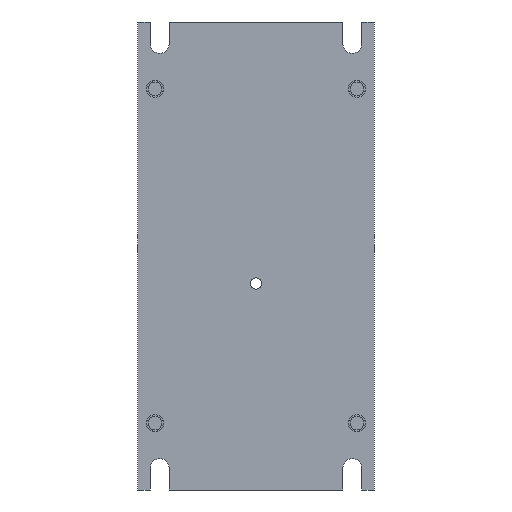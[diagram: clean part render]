
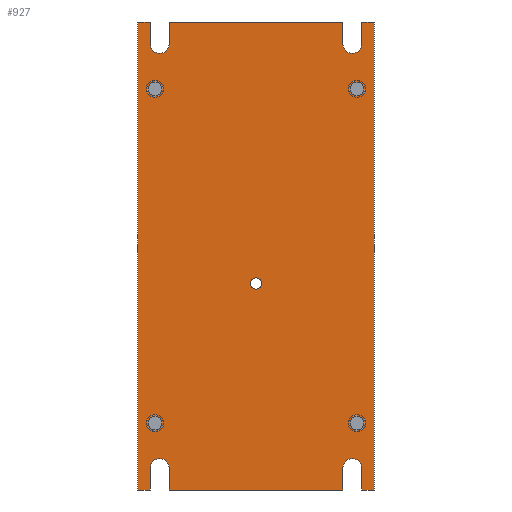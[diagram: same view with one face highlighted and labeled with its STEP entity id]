
A CAD part, front view. The second image highlights one B-rep face of the part: STEP entity #927.
In plain terms, the highlighted planar face has unit normal (0, -1, 0).
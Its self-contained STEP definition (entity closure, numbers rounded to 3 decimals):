
#71=DIRECTION('',(0.,0.,-1.));
#72=VECTOR('',#71,4.);
#73=CARTESIAN_POINT('',(-15.8,0.,42.5));
#74=LINE('',#73,#72);
#79=DIRECTION('',(1.,0.,0.));
#80=VECTOR('',#79,31.6);
#81=CARTESIAN_POINT('',(-15.8,0.,42.5));
#82=LINE('',#81,#80);
#86=DIRECTION('',(0.,0.,-1.));
#87=VECTOR('',#86,4.);
#88=CARTESIAN_POINT('',(15.8,0.,42.5));
#89=LINE('',#88,#87);
#93=CARTESIAN_POINT('',(17.5,0.,38.5));
#94=DIRECTION('',(0.,1.,0.));
#95=DIRECTION('',(1.,0.,0.));
#96=AXIS2_PLACEMENT_3D('',#93,#94,#95);
#101=DIRECTION('',(0.,0.,-1.));
#102=VECTOR('',#101,4.);
#103=CARTESIAN_POINT('',(19.2,0.,42.5));
#104=LINE('',#103,#102);
#108=DIRECTION('',(1.,0.,0.));
#109=VECTOR('',#108,2.3);
#110=CARTESIAN_POINT('',(19.2,0.,42.5));
#111=LINE('',#110,#109);
#115=DIRECTION('',(0.,0.,-1.));
#116=VECTOR('',#115,85.);
#117=CARTESIAN_POINT('',(21.5,0.,42.5));
#118=LINE('',#117,#116);
#122=DIRECTION('',(-1.,0.,0.));
#123=VECTOR('',#122,2.3);
#124=CARTESIAN_POINT('',(21.5,0.,-42.5));
#125=LINE('',#124,#123);
#129=DIRECTION('',(0.,0.,1.));
#130=VECTOR('',#129,4.);
#131=CARTESIAN_POINT('',(19.2,0.,-42.5));
#132=LINE('',#131,#130);
#136=CARTESIAN_POINT('',(17.5,0.,-38.5));
#137=DIRECTION('',(0.,1.,0.));
#138=DIRECTION('',(-1.,0.,0.));
#139=AXIS2_PLACEMENT_3D('',#136,#137,#138);
#144=DIRECTION('',(0.,0.,1.));
#145=VECTOR('',#144,4.);
#146=CARTESIAN_POINT('',(15.8,0.,-42.5));
#147=LINE('',#146,#145);
#151=DIRECTION('',(-1.,0.,0.));
#152=VECTOR('',#151,31.6);
#153=CARTESIAN_POINT('',(15.8,0.,-42.5));
#154=LINE('',#153,#152);
#158=DIRECTION('',(0.,0.,1.));
#159=VECTOR('',#158,4.);
#160=CARTESIAN_POINT('',(-15.8,0.,-42.5));
#161=LINE('',#160,#159);
#165=CARTESIAN_POINT('',(-17.5,0.,-38.5));
#166=DIRECTION('',(0.,1.,0.));
#167=DIRECTION('',(-1.,0.,0.));
#168=AXIS2_PLACEMENT_3D('',#165,#166,#167);
#173=DIRECTION('',(0.,0.,1.));
#174=VECTOR('',#173,4.);
#175=CARTESIAN_POINT('',(-19.2,0.,-42.5));
#176=LINE('',#175,#174);
#180=DIRECTION('',(-1.,0.,0.));
#181=VECTOR('',#180,2.3);
#182=CARTESIAN_POINT('',(-19.2,0.,-42.5));
#183=LINE('',#182,#181);
#187=DIRECTION('',(0.,0.,1.));
#188=VECTOR('',#187,85.);
#189=CARTESIAN_POINT('',(-21.5,0.,-42.5));
#190=LINE('',#189,#188);
#194=DIRECTION('',(1.,0.,0.));
#195=VECTOR('',#194,2.3);
#196=CARTESIAN_POINT('',(-21.5,0.,42.5));
#197=LINE('',#196,#195);
#201=DIRECTION('',(0.,0.,-1.));
#202=VECTOR('',#201,4.);
#203=CARTESIAN_POINT('',(-19.2,0.,42.5));
#204=LINE('',#203,#202);
#208=CARTESIAN_POINT('',(-17.5,0.,38.5));
#209=DIRECTION('',(0.,1.,0.));
#210=DIRECTION('',(1.,0.,0.));
#211=AXIS2_PLACEMENT_3D('',#208,#209,#210);
#216=CARTESIAN_POINT('',(-18.35,0.,30.35));
#217=DIRECTION('',(0.,1.,0.));
#218=DIRECTION('',(1.,0.,0.));
#219=AXIS2_PLACEMENT_3D('',#216,#217,#218);
#224=CARTESIAN_POINT('',(-18.35,0.,30.35));
#225=DIRECTION('',(0.,1.,0.));
#226=DIRECTION('',(-1.,0.,0.));
#227=AXIS2_PLACEMENT_3D('',#224,#225,#226);
#232=CARTESIAN_POINT('',(18.35,0.,30.35));
#233=DIRECTION('',(0.,1.,0.));
#234=DIRECTION('',(1.,0.,0.));
#235=AXIS2_PLACEMENT_3D('',#232,#233,#234);
#240=CARTESIAN_POINT('',(18.35,0.,30.35));
#241=DIRECTION('',(0.,1.,0.));
#242=DIRECTION('',(-1.,0.,0.));
#243=AXIS2_PLACEMENT_3D('',#240,#241,#242);
#248=CARTESIAN_POINT('',(-18.35,0.,-30.35));
#249=DIRECTION('',(0.,1.,0.));
#250=DIRECTION('',(1.,0.,0.));
#251=AXIS2_PLACEMENT_3D('',#248,#249,#250);
#256=CARTESIAN_POINT('',(-18.35,0.,-30.35));
#257=DIRECTION('',(0.,1.,0.));
#258=DIRECTION('',(-1.,0.,0.));
#259=AXIS2_PLACEMENT_3D('',#256,#257,#258);
#264=CARTESIAN_POINT('',(18.35,0.,-30.35));
#265=DIRECTION('',(0.,1.,0.));
#266=DIRECTION('',(1.,0.,0.));
#267=AXIS2_PLACEMENT_3D('',#264,#265,#266);
#272=CARTESIAN_POINT('',(18.35,0.,-30.35));
#273=DIRECTION('',(0.,1.,0.));
#274=DIRECTION('',(-1.,0.,0.));
#275=AXIS2_PLACEMENT_3D('',#272,#273,#274);
#280=CARTESIAN_POINT('',(0.,0.,-5.));
#281=DIRECTION('',(0.,1.,0.));
#282=DIRECTION('',(1.,0.,0.));
#283=AXIS2_PLACEMENT_3D('',#280,#281,#282);
#288=CARTESIAN_POINT('',(0.,0.,-5.));
#289=DIRECTION('',(0.,1.,0.));
#290=DIRECTION('',(-1.,0.,0.));
#291=AXIS2_PLACEMENT_3D('',#288,#289,#290);
#730=CARTESIAN_POINT('',(-21.5,0.,-42.5));
#731=CARTESIAN_POINT('',(-21.5,0.,42.5));
#732=VERTEX_POINT('',#730);
#733=VERTEX_POINT('',#731);
#734=CARTESIAN_POINT('',(21.5,0.,42.5));
#735=CARTESIAN_POINT('',(21.5,0.,-42.5));
#736=VERTEX_POINT('',#734);
#737=VERTEX_POINT('',#735);
#746=CARTESIAN_POINT('',(-15.8,0.,42.5));
#747=CARTESIAN_POINT('',(-15.8,0.,38.5));
#748=VERTEX_POINT('',#746);
#749=VERTEX_POINT('',#747);
#750=CARTESIAN_POINT('',(-19.2,0.,38.5));
#751=VERTEX_POINT('',#750);
#752=CARTESIAN_POINT('',(-19.2,0.,42.5));
#753=VERTEX_POINT('',#752);
#762=CARTESIAN_POINT('',(15.8,0.,42.5));
#763=VERTEX_POINT('',#762);
#766=CARTESIAN_POINT('',(-17.1,0.,30.35));
#767=CARTESIAN_POINT('',(-19.6,0.,30.35));
#768=VERTEX_POINT('',#766);
#769=VERTEX_POINT('',#767);
#774=CARTESIAN_POINT('',(1.025,0.,-5.));
#775=CARTESIAN_POINT('',(-1.025,0.,-5.));
#776=VERTEX_POINT('',#774);
#777=VERTEX_POINT('',#775);
#782=CARTESIAN_POINT('',(19.6,0.,30.35));
#783=CARTESIAN_POINT('',(17.1,0.,30.35));
#784=VERTEX_POINT('',#782);
#785=VERTEX_POINT('',#783);
#790=CARTESIAN_POINT('',(-17.1,0.,-30.35));
#791=CARTESIAN_POINT('',(-19.6,0.,-30.35));
#792=VERTEX_POINT('',#790);
#793=VERTEX_POINT('',#791);
#798=CARTESIAN_POINT('',(19.6,0.,-30.35));
#799=CARTESIAN_POINT('',(17.1,0.,-30.35));
#800=VERTEX_POINT('',#798);
#801=VERTEX_POINT('',#799);
#806=CARTESIAN_POINT('',(19.2,0.,42.5));
#807=CARTESIAN_POINT('',(19.2,0.,38.5));
#808=VERTEX_POINT('',#806);
#809=VERTEX_POINT('',#807);
#810=CARTESIAN_POINT('',(15.8,0.,38.5));
#811=VERTEX_POINT('',#810);
#818=CARTESIAN_POINT('',(-19.2,0.,-42.5));
#819=CARTESIAN_POINT('',(-19.2,0.,-38.5));
#820=VERTEX_POINT('',#818);
#821=VERTEX_POINT('',#819);
#822=CARTESIAN_POINT('',(-15.8,0.,-38.5));
#823=VERTEX_POINT('',#822);
#824=CARTESIAN_POINT('',(-15.8,0.,-42.5));
#825=VERTEX_POINT('',#824);
#826=CARTESIAN_POINT('',(15.8,0.,-42.5));
#827=CARTESIAN_POINT('',(15.8,0.,-38.5));
#828=VERTEX_POINT('',#826);
#829=VERTEX_POINT('',#827);
#830=CARTESIAN_POINT('',(19.2,0.,-38.5));
#831=VERTEX_POINT('',#830);
#832=CARTESIAN_POINT('',(19.2,0.,-42.5));
#833=VERTEX_POINT('',#832);
#850=CARTESIAN_POINT('',(0.,0.,0.));
#851=DIRECTION('',(0.,1.,0.));
#852=DIRECTION('',(1.,0.,0.));
#853=AXIS2_PLACEMENT_3D('',#850,#851,#852);
#854=PLANE('',#853);
#856=ORIENTED_EDGE('',*,*,#855,.F.);
#858=ORIENTED_EDGE('',*,*,#857,.T.);
#860=ORIENTED_EDGE('',*,*,#859,.T.);
#862=ORIENTED_EDGE('',*,*,#861,.F.);
#864=ORIENTED_EDGE('',*,*,#863,.F.);
#866=ORIENTED_EDGE('',*,*,#865,.T.);
#868=ORIENTED_EDGE('',*,*,#867,.T.);
#870=ORIENTED_EDGE('',*,*,#869,.T.);
#872=ORIENTED_EDGE('',*,*,#871,.T.);
#874=ORIENTED_EDGE('',*,*,#873,.F.);
#876=ORIENTED_EDGE('',*,*,#875,.F.);
#878=ORIENTED_EDGE('',*,*,#877,.T.);
#880=ORIENTED_EDGE('',*,*,#879,.T.);
#882=ORIENTED_EDGE('',*,*,#881,.F.);
#884=ORIENTED_EDGE('',*,*,#883,.F.);
#886=ORIENTED_EDGE('',*,*,#885,.T.);
#888=ORIENTED_EDGE('',*,*,#887,.T.);
#890=ORIENTED_EDGE('',*,*,#889,.T.);
#892=ORIENTED_EDGE('',*,*,#891,.T.);
#894=ORIENTED_EDGE('',*,*,#893,.F.);
#895=EDGE_LOOP('',(#856,#858,#860,#862,#864,#866,#868,#870,#872,#874,#876,#878,
#880,#882,#884,#886,#888,#890,#892,#894));
#896=FACE_OUTER_BOUND('',#895,.F.);
#898=ORIENTED_EDGE('',*,*,#897,.F.);
#900=ORIENTED_EDGE('',*,*,#899,.F.);
#901=EDGE_LOOP('',(#898,#900));
#902=FACE_BOUND('',#901,.F.);
#904=ORIENTED_EDGE('',*,*,#903,.F.);
#906=ORIENTED_EDGE('',*,*,#905,.F.);
#907=EDGE_LOOP('',(#904,#906));
#908=FACE_BOUND('',#907,.F.);
#910=ORIENTED_EDGE('',*,*,#909,.F.);
#912=ORIENTED_EDGE('',*,*,#911,.F.);
#913=EDGE_LOOP('',(#910,#912));
#914=FACE_BOUND('',#913,.F.);
#916=ORIENTED_EDGE('',*,*,#915,.F.);
#918=ORIENTED_EDGE('',*,*,#917,.F.);
#919=EDGE_LOOP('',(#916,#918));
#920=FACE_BOUND('',#919,.F.);
#922=ORIENTED_EDGE('',*,*,#921,.F.);
#924=ORIENTED_EDGE('',*,*,#923,.F.);
#925=EDGE_LOOP('',(#922,#924));
#926=FACE_BOUND('',#925,.F.);
#927=ADVANCED_FACE('',(#896,#902,#908,#914,#920,#926),#854,.F.);
#97=CIRCLE('',#96,1.7);
#140=CIRCLE('',#139,1.7);
#169=CIRCLE('',#168,1.7);
#212=CIRCLE('',#211,1.7);
#220=CIRCLE('',#219,1.25);
#228=CIRCLE('',#227,1.25);
#236=CIRCLE('',#235,1.25);
#244=CIRCLE('',#243,1.25);
#252=CIRCLE('',#251,1.25);
#260=CIRCLE('',#259,1.25);
#268=CIRCLE('',#267,1.25);
#276=CIRCLE('',#275,1.25);
#284=CIRCLE('',#283,1.025);
#292=CIRCLE('',#291,1.025);
#855=EDGE_CURVE('',#748,#749,#74,.T.);
#857=EDGE_CURVE('',#748,#763,#82,.T.);
#859=EDGE_CURVE('',#763,#811,#89,.T.);
#861=EDGE_CURVE('',#809,#811,#97,.T.);
#863=EDGE_CURVE('',#808,#809,#104,.T.);
#865=EDGE_CURVE('',#808,#736,#111,.T.);
#867=EDGE_CURVE('',#736,#737,#118,.T.);
#869=EDGE_CURVE('',#737,#833,#125,.T.);
#871=EDGE_CURVE('',#833,#831,#132,.T.);
#873=EDGE_CURVE('',#829,#831,#140,.T.);
#875=EDGE_CURVE('',#828,#829,#147,.T.);
#877=EDGE_CURVE('',#828,#825,#154,.T.);
#879=EDGE_CURVE('',#825,#823,#161,.T.);
#881=EDGE_CURVE('',#821,#823,#169,.T.);
#883=EDGE_CURVE('',#820,#821,#176,.T.);
#885=EDGE_CURVE('',#820,#732,#183,.T.);
#887=EDGE_CURVE('',#732,#733,#190,.T.);
#889=EDGE_CURVE('',#733,#753,#197,.T.);
#891=EDGE_CURVE('',#753,#751,#204,.T.);
#893=EDGE_CURVE('',#749,#751,#212,.T.);
#897=EDGE_CURVE('',#768,#769,#220,.T.);
#899=EDGE_CURVE('',#769,#768,#228,.T.);
#903=EDGE_CURVE('',#784,#785,#236,.T.);
#905=EDGE_CURVE('',#785,#784,#244,.T.);
#909=EDGE_CURVE('',#792,#793,#252,.T.);
#911=EDGE_CURVE('',#793,#792,#260,.T.);
#915=EDGE_CURVE('',#800,#801,#268,.T.);
#917=EDGE_CURVE('',#801,#800,#276,.T.);
#921=EDGE_CURVE('',#776,#777,#284,.T.);
#923=EDGE_CURVE('',#777,#776,#292,.T.);
